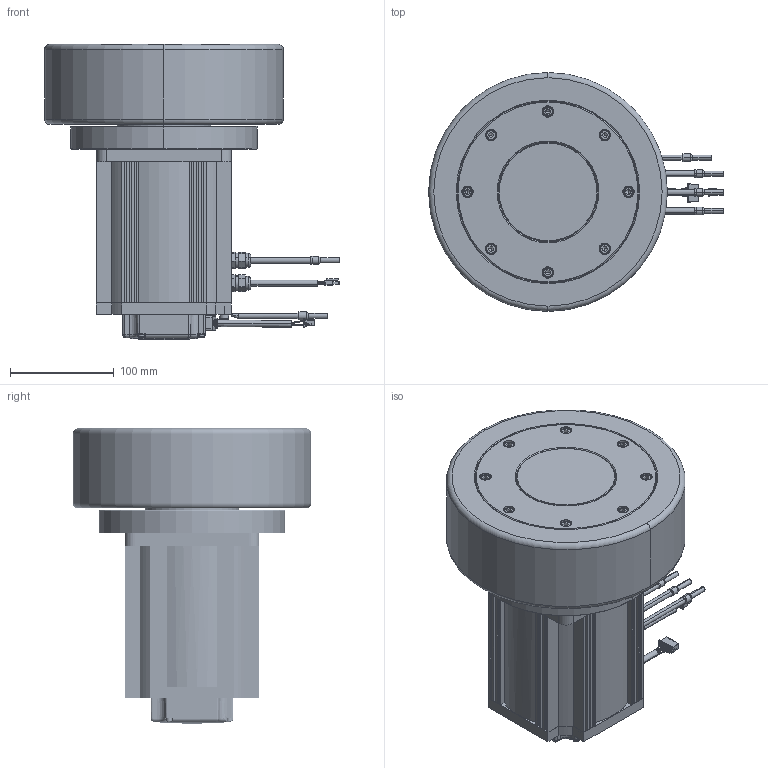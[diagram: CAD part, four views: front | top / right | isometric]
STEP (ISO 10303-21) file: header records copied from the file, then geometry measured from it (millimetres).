
FILE_DESCRIPTION((''),'2;1');
FILE_NAME('MSD230--200-30GSL-B_ASM','2026-06-05T09:04:46',('MS28159'),(''),'CREO PARAMETRIC BY PTC INC, 2018100','CREO PARAMETRIC BY PTC INC, 2018100','');
FILE_SCHEMA(('CONFIG_CONTROL_DESIGN'));
Length unit declared in the file: millimetre
Products named in the file (9): SINGLE_COIL_LOCK_WASHERS_LIGH_4; AEQ-145N-032-15-22-1_X2_6A215_2; HEXAGON_SOCKET_HEAD_CAP_SCREW_1; AEQ-145-H77-W230_1_1; AEQ-145-L2-15-22-1-H77-W230_A_1_ASM; AEQ-145N-020-15-22-1-H77-W230_1_ASM; 4611170005765_A0_130SVE04302-20_ASM; 130SVE04302-2000G_ASM; MSD230--200-30GSL-B_ASM
Assembly tree (22 placements, depth 5):
  MSD230--200-30GSL-B_ASM
    4611170005765_A0_130SVE04302-20_ASM
      AEQ-145N-020-15-22-1-H77-W230_1_ASM
        AEQ-145-L2-15-22-1-H77-W230_A_1_ASM
          SINGLE_COIL_LOCK_WASHERS_LIGH_4  x8
          AEQ-145N-032-15-22-1_X2_6A215_2
          HEXAGON_SOCKET_HEAD_CAP_SCREW_1  x8
          AEQ-145-H77-W230_1_1
    130SVE04302-2000G_ASM
Bounding box: 284 x 230 x 284.3 mm (x, y, z)
Volume: 3643213.5 mm3; surface area: 504459.4 mm2
Topology: 18 solids, 73 shells, 3396 faces, 8265 edges, 4901 vertices
Faces by surface type: cone 1324, cylinder 1014, plane 836, torus 168, bspline 26, sphere 18, extrusion 10
Entity records: 56124 total; most frequent: CARTESIAN_POINT 14256, DIRECTION 8885, ORIENTED_EDGE 7834, EDGE_CURVE 4565, AXIS2_PLACEMENT_3D 3052, VERTEX_POINT 3018, VECTOR 2781, LINE 2771
